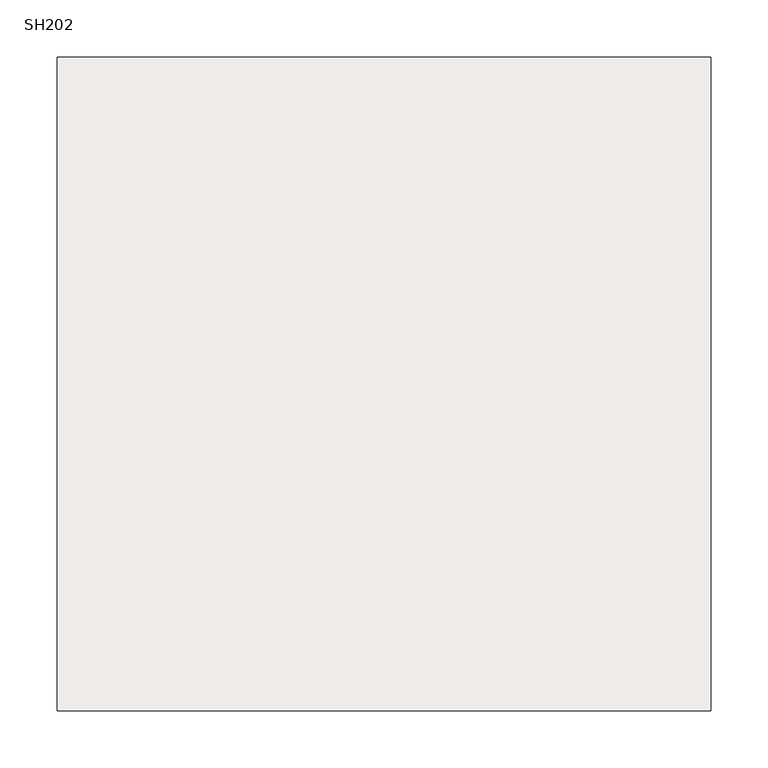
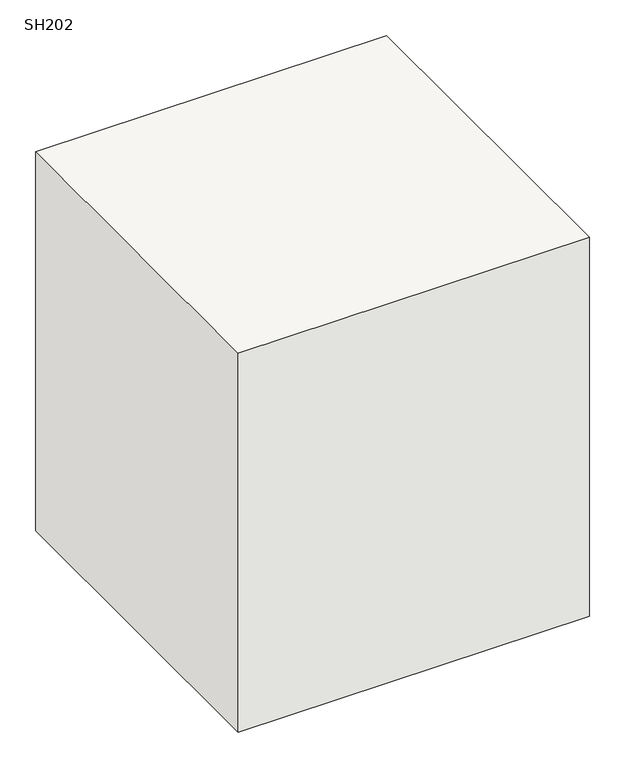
"""IFC4 building model written with IfcOpenShell, lengths in millimetres: slab geometry, 柱形_SH : SH202."""

import ifcopenshell
import ifcopenshell.guid

model = None  # the IFC model being written
_history = None  # IfcOwnerHistory: only IFC2X3 demands one
_inside = {}  # id of a spatial element -> (the spatial element, [elements in it])
_under = {}  # id of a project, library or spatial element -> (it, [spatial elements below it])
_declared = {}  # id of a project -> (the project, [libraries it declares])
_typed = {}  # id of a type object -> (the type object, [elements of that type])
_made_of = {}  # id of a material, layer set ... -> (it, [elements and type objects made of it])


def new_model(schema):
    """Start an empty IFC model of exactly this schema.

    Asked for "IFC4X3", IfcOpenShell would pick the latest addendum, in which some entities
    have other attributes; the version numbers below select the first issue.
    IFC2X3 requires an IfcOwnerHistory on every rooted entity: one is made here for all.
    """
    global model, _history
    if schema == "IFC4X3":
        model = ifcopenshell.file(schema_version=(4, 3, 0, 0))
    else:
        model = ifcopenshell.file(schema=schema)
    _inside.clear()
    _under.clear()
    _declared.clear()
    _typed.clear()
    _made_of.clear()
    _history = None
    if model.schema == "IFC2X3":
        org = make("IfcOrganization", Name="unknown")
        user = make(
            "IfcPersonAndOrganization",
            ThePerson=make("IfcPerson", FamilyName="unknown"),
            TheOrganization=org,
        )
        app = make(
            "IfcApplication",
            ApplicationDeveloper=org,
            Version="unknown",
            ApplicationFullName="unknown",
            ApplicationIdentifier="unknown",
        )
        _history = make(
            "IfcOwnerHistory",
            OwningUser=user,
            OwningApplication=app,
            ChangeAction="ADDED",
            CreationDate=0,
        )
    return model


def make(cls, **values):
    """One entity of the class cls with the attributes given. An attribute that is None is left unset."""
    return model.create_entity(
        cls, **{name: value for name, value in values.items() if value is not None}
    )


def rooted(cls, **values):
    """An entity with a GlobalId (a new one), such as an element, a storey or a relation."""
    return make(cls, GlobalId=ifcopenshell.guid.new(), OwnerHistory=_history, **values)


def si_unit(unit_type, name, prefix=None):
    """IfcSIUnit, for example si_unit("LENGTHUNIT", "METRE", prefix="MILLI")."""
    return make("IfcSIUnit", UnitType=unit_type, Prefix=prefix, Name=name)


def assignment(units):
    """IfcUnitAssignment: the units of a project."""
    return None if units is None else make("IfcUnitAssignment", Units=units)


def point(xyz):
    """IfcCartesianPoint."""
    return None if xyz is None else make("IfcCartesianPoint", Coordinates=xyz)


def direction(xyz):
    """IfcDirection."""
    return None if xyz is None else make("IfcDirection", DirectionRatios=xyz)


def frame(location, z_axis=None, x_axis=None):
    """IfcAxis2Placement3D, a coordinate frame: its origin and axes. An axis left out is left unset."""
    return make(
        "IfcAxis2Placement3D",
        Location=point(location),
        Axis=direction(z_axis),
        RefDirection=direction(x_axis),
    )


def origin():
    """The frame at (0, 0, 0) with its axes left unset."""
    return frame((0.0, 0.0, 0.0))


def place(relative_to, where):
    """IfcLocalPlacement: puts the frame where relative to a parent placement (None: the world)."""
    return make(
        "IfcLocalPlacement", PlacementRelTo=relative_to, RelativePlacement=where
    )


def context(
    kind, dimensions, precision=None, world=None, true_north=None, identifier=None
):
    """IfcGeometricRepresentationContext, for example the 3D "Model" context."""
    return make(
        "IfcGeometricRepresentationContext",
        ContextIdentifier=identifier,
        ContextType=kind,
        CoordinateSpaceDimension=dimensions,
        Precision=precision,
        WorldCoordinateSystem=world,
        TrueNorth=true_north,
    )


def project(units=None, contexts=None):
    """IfcProject with its units and contexts."""
    return rooted(
        "IfcProject",
        Name="project",
        RepresentationContexts=contexts,
        UnitsInContext=assignment(units),
    )


def spatial(cls, under=None, at=None, **own):
    """A site, building, storey or space (cls), placed at a placement, below another one or the project."""
    s = rooted(cls, ObjectPlacement=at, **own)
    if under is not None:
        _under.setdefault(under.id(), (under, []))[1].append(s)
    return s


def polyline(points):
    """IfcPolyline through the points."""
    return make("IfcPolyline", Points=[point(p) for p in points])


def outline(outer, holes=None, kind="AREA"):
    """IfcArbitraryClosedProfileDef: a profile drawn as a closed curve; with holes, ...WithVoids."""
    if holes is None:
        return make("IfcArbitraryClosedProfileDef", ProfileType=kind, OuterCurve=outer)
    return make(
        "IfcArbitraryProfileDefWithVoids",
        ProfileType=kind,
        OuterCurve=outer,
        InnerCurves=holes,
    )


def extrude(swept, where, along, depth):
    """IfcExtrudedAreaSolid: the profile swept, set in the frame where, extruded along a direction by depth."""
    return make(
        "IfcExtrudedAreaSolid",
        SweptArea=swept,
        Position=where,
        ExtrudedDirection=direction(along),
        Depth=depth,
    )


def shape(context_of_items, identifier, shape_type, items):
    """IfcShapeRepresentation: the items that make up one representation, for example the "Body"."""
    return make(
        "IfcShapeRepresentation",
        ContextOfItems=context_of_items,
        RepresentationIdentifier=identifier,
        RepresentationType=shape_type,
        Items=items,
    )


def source(mapping_origin, context_of_items, identifier, shape_type, items):
    """IfcRepresentationMap: a shape defined once, which mapped items show again and again."""
    return make(
        "IfcRepresentationMap",
        MappingOrigin=mapping_origin,
        MappedRepresentation=shape(context_of_items, identifier, shape_type, items),
    )


def transform(
    local_origin,
    x_axis=None,
    y_axis=None,
    z_axis=None,
    scale=None,
    scale2=None,
    scale3=None,
    uniform=True,
):
    """IfcCartesianTransformationOperator3D, or its non-uniform kind. x_axis, y_axis, z_axis: its Axis1, 2, 3."""
    if uniform:
        return make(
            "IfcCartesianTransformationOperator3D",
            Axis1=direction(x_axis),
            Axis2=direction(y_axis),
            LocalOrigin=point(local_origin),
            Scale=scale,
            Axis3=direction(z_axis),
        )
    return make(
        "IfcCartesianTransformationOperator3DnonUniform",
        Axis1=direction(x_axis),
        Axis2=direction(y_axis),
        LocalOrigin=point(local_origin),
        Scale=scale,
        Axis3=direction(z_axis),
        Scale2=scale2,
        Scale3=scale3,
    )


def mapped(mapping_source, mapping_target):
    """IfcMappedItem: shows the shape of a source again, moved by a transform."""
    return make(
        "IfcMappedItem", MappingSource=mapping_source, MappingTarget=mapping_target
    )


def made_of(thing, what):
    """Note that an element or type object is made of a material, layer set ...; save() writes the relation."""
    if what is not None:
        _made_of.setdefault(what.id(), (what, []))[1].append(thing)
    return thing


def element(
    cls,
    number,
    at=None,
    inside=None,
    cuts=None,
    type_object=None,
    material=None,
    context=None,
    identifier="Body",
    shape_type=None,
    held_by="IfcProductDefinitionShape",
    body=None,
    shapes=None,
    **own,
):
    """One element of the class cls, such as IfcWall. Its Tag is "e" and its number.

    at: its placement. inside: the storey or other place that contains it. cuts: it is an
    opening in that element (IfcRelVoidsElement). A single representation is given by context,
    identifier, shape_type and body (its items); several are given by shapes. held_by: the class
    of the entity that holds the representations. save() writes the other relations.
    """
    e = rooted(cls, Tag="e%d" % number, ObjectPlacement=at, **own)
    if body is not None:
        shapes = [shape(context, identifier, shape_type, body)]
    if shapes is not None:
        e.Representation = make(held_by, Representations=shapes)
    if inside is not None:
        _inside.setdefault(inside.id(), (inside, []))[1].append(e)
    if cuts is not None:
        rooted(
            "IfcRelVoidsElement", RelatingBuildingElement=cuts, RelatedOpeningElement=e
        )
    if type_object is not None:
        _typed.setdefault(type_object.id(), (type_object, []))[1].append(e)
    return made_of(e, material)


def aggregate(whole, parts):
    """IfcRelAggregates: a whole, such as a stair, and the parts it consists of."""
    return rooted("IfcRelAggregates", RelatingObject=whole, RelatedObjects=parts)


def save(model, path):
    """Write the relations noted so far, then the file.

    IfcRelAggregates (storeys below a building ...), IfcRelContainedInSpatialStructure (elements
    in a storey), IfcRelDefinesByType, IfcRelAssociatesMaterial and IfcRelDeclares: one each for
    every whole, place, type object, material and project.
    """
    for whole, parts in _under.values():
        aggregate(whole, parts)
    for where, things in _inside.values():
        rooted(
            "IfcRelContainedInSpatialStructure",
            RelatedElements=things,
            RelatingStructure=where,
        )
    for kind, things in _typed.values():
        rooted("IfcRelDefinesByType", RelatedObjects=things, RelatingType=kind)
    for what, things in _made_of.values():
        rooted("IfcRelAssociatesMaterial", RelatedObjects=things, RelatingMaterial=what)
    for by, libraries in _declared.values():
        rooted("IfcRelDeclares", RelatingContext=by, RelatedDefinitions=libraries)
    model.write(path)


def sh202_af07e2a0(model_context):
    return source(origin(), model_context, "Body", "SweptSolid", [
        extrude(outline(polyline([(285.0, 285.0), (285.0, -285.0), (-285.0, -285.0), (-285.0, 285.0), (285.0, 285.0)])), frame((0.0, 0.0, -650.0), z_axis=(0.0, 0.0, 1.0), x_axis=(1.0, 0.0, 0.0)), (0.0, 0.0, 1.0), 650.0),
    ])


if __name__ == "__main__":
    model = new_model("IFC4")
    model_context = context("Model", 3, world=origin())
    ifc_project = project(units=[si_unit("LENGTHUNIT", "METRE", prefix="MILLI")], contexts=[model_context])
    site = spatial("IfcSite", under=ifc_project)
    building = spatial("IfcBuilding", under=site)
    placement = place(None, origin())
    sh202_shape = sh202_af07e2a0(model_context)
    element("IfcSlab", 1, ObjectType="柱形_SH : SH202", at=placement, inside=building, context=model_context, shape_type="MappedRepresentation", body=[
        mapped(sh202_shape, transform((0.0, 0.0, 0.0), x_axis=(1.0, 0.0, 0.0), y_axis=(0.0, 1.0, 0.0), z_axis=(0.0, 0.0, 1.0))),
    ])
    save(model, "model.ifc")
